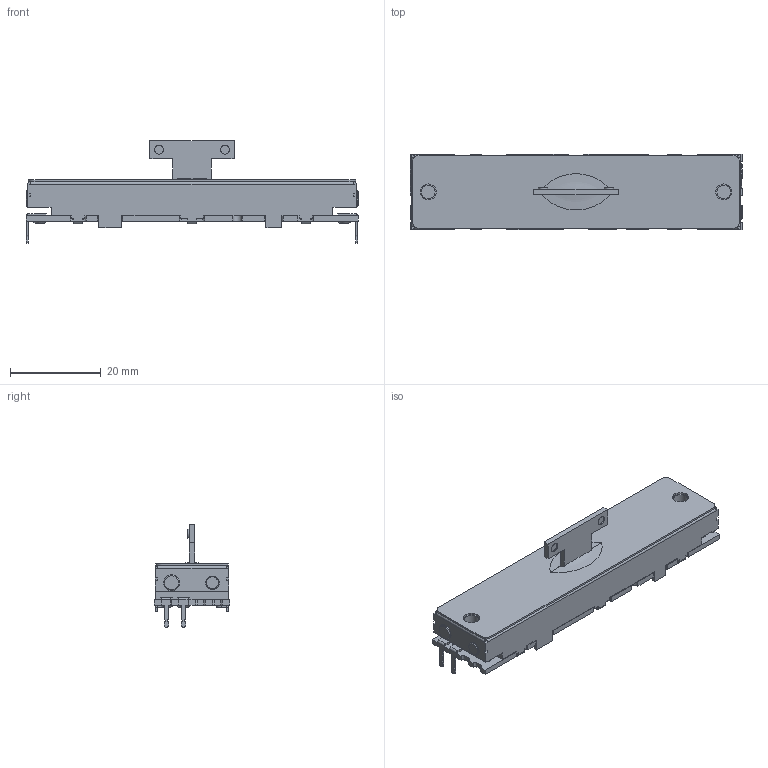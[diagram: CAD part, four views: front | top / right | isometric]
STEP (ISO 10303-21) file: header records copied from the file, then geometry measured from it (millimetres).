
FILE_DESCRIPTION(('FreeCAD Model'),'2;1');
FILE_NAME('Open CASCADE Shape Model','2023-03-16T16:22:02',(''),(''), 'Open CASCADE STEP processor 7.6','FreeCAD','Unknown');
FILE_SCHEMA(('AUTOMOTIVE_DESIGN { 1 0 10303 214 1 1 1 1 }'));
Length unit declared in the file: millimetre
Products named in the file (1): Fusion002006
Bounding box: 73 x 16.5 x 22.6 mm (x, y, z)
Volume: 10396.1 mm3; surface area: 5389.2 mm2
Topology: 1 solids, 4 shells, 481 faces, 1292 edges, 828 vertices
Faces by surface type: plane 336, cylinder 125, extrusion 8, cone 7, torus 3, revolution 2
Full cylindrical faces by diameter (mm): 0.5 x9, 1.5 x3, 1.7 x8, 2 x4, 3 x4, 3.5 x4
Entity records: 36138 total; most frequent: CARTESIAN_POINT 9355, DIRECTION 4020, ORIENTED_EDGE 2592, PCURVE 2584, DEFINITIONAL_REPRESENTATION 2584, VECTOR 2371, LINE 2363, EDGE_CURVE 1292
